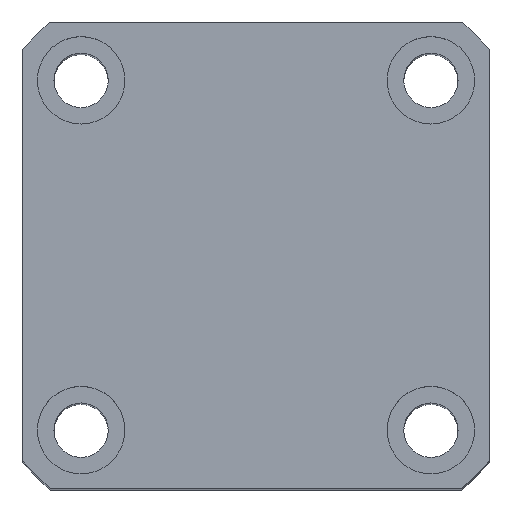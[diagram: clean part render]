
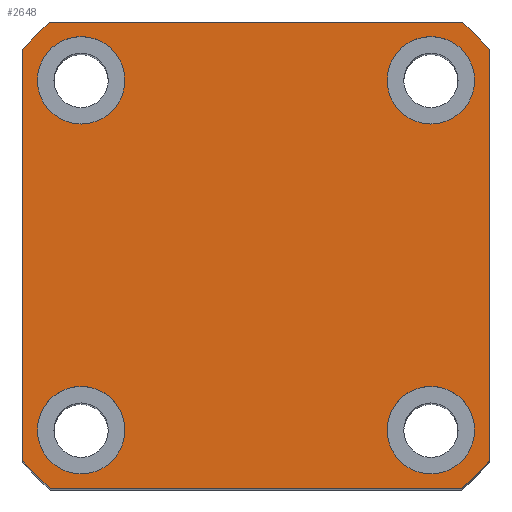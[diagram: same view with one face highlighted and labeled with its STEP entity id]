
A CAD part, top view. The second image highlights one B-rep face of the part: STEP entity #2648.
In plain terms, the highlighted planar face has unit normal (0, 0, 1) as drawn and (1, 0, 0) by its records, which use the part's own axes.
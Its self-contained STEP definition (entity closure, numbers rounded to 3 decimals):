
#5 = DIRECTION ( 'NONE',  ( 0., 0., -1. ) ) ;
#7 = DIRECTION ( 'NONE',  ( 0., 0., -1. ) ) ;
#20 = CARTESIAN_POINT ( 'NONE',  ( 95., 0., 0. ) ) ;
#152 = LINE ( 'NONE', #2949, #1435 ) ;
#159 = EDGE_CURVE ( 'NONE', #6123, #1925, #5030, .T. ) ;
#262 = DIRECTION ( 'NONE',  ( 1., 0., 0. ) ) ;
#368 = DIRECTION ( 'NONE',  ( 1., 0., 0. ) ) ;
#392 = CARTESIAN_POINT ( 'NONE',  ( 95., -18., 18. ) ) ;
#517 = CARTESIAN_POINT ( 'NONE',  ( 95., 24., 24. ) ) ;
#527 = EDGE_CURVE ( 'NONE', #8044, #7627, #5136, .T. ) ;
#533 = EDGE_LOOP ( 'NONE', ( #6852, #3414 ) ) ;
#601 = EDGE_LOOP ( 'NONE', ( #6650, #4285 ) ) ;
#697 = DIRECTION ( 'NONE',  ( 0., 0., -1. ) ) ;
#753 = DIRECTION ( 'NONE',  ( 1., 0., 0. ) ) ;
#780 = AXIS2_PLACEMENT_3D ( 'NONE', #3987, #262, #4616 ) ;
#891 = CARTESIAN_POINT ( 'NONE',  ( 95., 18., -13.5 ) ) ;
#922 = ORIENTED_EDGE ( 'NONE', *, *, #1958, .T. ) ;
#937 = EDGE_CURVE ( 'NONE', #7038, #6116, #5415, .T. ) ;
#994 = EDGE_CURVE ( 'NONE', #4853, #3698, #7094, .T. ) ;
#1004 = AXIS2_PLACEMENT_3D ( 'NONE', #392, #368, #7 ) ;
#1095 = EDGE_CURVE ( 'NONE', #1118, #4091, #1923, .T. ) ;
#1118 = VERTEX_POINT ( 'NONE', #2047 ) ;
#1137 = DIRECTION ( 'NONE',  ( 0., 0., -1. ) ) ;
#1154 = DIRECTION ( 'NONE',  ( 0., 0., 1. ) ) ;
#1215 = CARTESIAN_POINT ( 'NONE',  ( 95., 18., 18. ) ) ;
#1230 = FACE_BOUND ( 'NONE', #533, .T. ) ;
#1272 = CARTESIAN_POINT ( 'NONE',  ( 95., 18., -18. ) ) ;
#1305 = DIRECTION ( 'NONE',  ( 1., 0., 0. ) ) ;
#1307 = EDGE_CURVE ( 'NONE', #4091, #1118, #6308, .T. ) ;
#1366 = AXIS2_PLACEMENT_3D ( 'NONE', #1922, #2006, #2037 ) ;
#1382 = DIRECTION ( 'NONE',  ( 0., 0., -1. ) ) ;
#1435 = VECTOR ( 'NONE', #3809, 1000. ) ;
#1624 = ORIENTED_EDGE ( 'NONE', *, *, #994, .T. ) ;
#1637 = FACE_BOUND ( 'NONE', #601, .T. ) ;
#1646 = VERTEX_POINT ( 'NONE', #7970 ) ;
#1712 = ORIENTED_EDGE ( 'NONE', *, *, #159, .T. ) ;
#1723 = EDGE_CURVE ( 'NONE', #1925, #4853, #152, .T. ) ;
#1727 = DIRECTION ( 'NONE',  ( 1., 0., 0. ) ) ;
#1773 = CARTESIAN_POINT ( 'NONE',  ( 95., -24., 24. ) ) ;
#1909 = LINE ( 'NONE', #517, #5224 ) ;
#1922 = CARTESIAN_POINT ( 'NONE',  ( 95., -18., -18. ) ) ;
#1923 = CIRCLE ( 'NONE', #6954, 4.5 ) ;
#1925 = VERTEX_POINT ( 'NONE', #5008 ) ;
#1958 = EDGE_CURVE ( 'NONE', #6116, #6123, #1909, .T. ) ;
#1979 = DIRECTION ( 'NONE',  ( 0., 0., -1. ) ) ;
#2006 = DIRECTION ( 'NONE',  ( 1., 0., 0. ) ) ;
#2037 = DIRECTION ( 'NONE',  ( 0., 0., -1. ) ) ;
#2047 = CARTESIAN_POINT ( 'NONE',  ( 95., -18., -13.5 ) ) ;
#2071 = DIRECTION ( 'NONE',  ( 1., 0., 0. ) ) ;
#2090 = VERTEX_POINT ( 'NONE', #6705 ) ;
#2105 = AXIS2_PLACEMENT_3D ( 'NONE', #20, #2071, #1979 ) ;
#2149 = DIRECTION ( 'NONE',  ( 0., 0., -1. ) ) ;
#2154 = EDGE_CURVE ( 'NONE', #7290, #4537, #4034, .T. ) ;
#2199 = DIRECTION ( 'NONE',  ( 1., 0., 0. ) ) ;
#2490 = CARTESIAN_POINT ( 'NONE',  ( 95., -18., -18. ) ) ;
#2624 = CARTESIAN_POINT ( 'NONE',  ( 95., -21.166, 24. ) ) ;
#2648 = ADVANCED_FACE ( 'NONE', ( #7668, #1637, #1230, #4329, #2707 ), #7445, .T. ) ;
#2688 = DIRECTION ( 'NONE',  ( 0., 0., -1. ) ) ;
#2690 = ORIENTED_EDGE ( 'NONE', *, *, #5216, .F. ) ;
#2707 = FACE_OUTER_BOUND ( 'NONE', #4292, .T. ) ;
#2739 = EDGE_CURVE ( 'NONE', #4537, #7290, #6890, .T. ) ;
#2765 = DIRECTION ( 'NONE',  ( 0., 0., -1. ) ) ;
#2857 = CARTESIAN_POINT ( 'NONE',  ( 95., 21.166, -24. ) ) ;
#2862 = CARTESIAN_POINT ( 'NONE',  ( 95., 0., 0. ) ) ;
#2949 = CARTESIAN_POINT ( 'NONE',  ( 95., 24., 24. ) ) ;
#3155 = ORIENTED_EDGE ( 'NONE', *, *, #3792, .T. ) ;
#3191 = EDGE_CURVE ( 'NONE', #2090, #1646, #5714, .T. ) ;
#3333 = VERTEX_POINT ( 'NONE', #3733 ) ;
#3343 = DIRECTION ( 'NONE',  ( 1., 0., 0. ) ) ;
#3375 = CARTESIAN_POINT ( 'NONE',  ( 95., -18., 22.5 ) ) ;
#3404 = CARTESIAN_POINT ( 'NONE',  ( 95., 24., -21.166 ) ) ;
#3414 = ORIENTED_EDGE ( 'NONE', *, *, #2739, .F. ) ;
#3514 = EDGE_CURVE ( 'NONE', #7627, #8044, #4726, .T. ) ;
#3561 = CARTESIAN_POINT ( 'NONE',  ( 95., 24., -24. ) ) ;
#3612 = DIRECTION ( 'NONE',  ( 0., 0., -1. ) ) ;
#3613 = CIRCLE ( 'NONE', #5568, 4.5 ) ;
#3638 = ORIENTED_EDGE ( 'NONE', *, *, #5475, .T. ) ;
#3644 = DIRECTION ( 'NONE',  ( 1., 0., 0. ) ) ;
#3670 = CARTESIAN_POINT ( 'NONE',  ( 95., 18., -18. ) ) ;
#3698 = VERTEX_POINT ( 'NONE', #5572 ) ;
#3731 = DIRECTION ( 'NONE',  ( 1., 0., 0. ) ) ;
#3733 = CARTESIAN_POINT ( 'NONE',  ( 95., -24., -21.166 ) ) ;
#3741 = CARTESIAN_POINT ( 'NONE',  ( 95., 18., -22.5 ) ) ;
#3792 = EDGE_CURVE ( 'NONE', #6558, #7038, #7260, .T. ) ;
#3809 = DIRECTION ( 'NONE',  ( 0., -1., 0. ) ) ;
#3952 = ORIENTED_EDGE ( 'NONE', *, *, #1723, .T. ) ;
#3987 = CARTESIAN_POINT ( 'NONE',  ( 95., 0., 0. ) ) ;
#4034 = CIRCLE ( 'NONE', #4801, 4.5 ) ;
#4035 = CARTESIAN_POINT ( 'NONE',  ( 95., 24., 21.166 ) ) ;
#4062 = AXIS2_PLACEMENT_3D ( 'NONE', #1215, #1305, #1137 ) ;
#4091 = VERTEX_POINT ( 'NONE', #7270 ) ;
#4122 = VECTOR ( 'NONE', #5801, 1000. ) ;
#4205 = AXIS2_PLACEMENT_3D ( 'NONE', #7507, #6978, #6951 ) ;
#4282 = EDGE_LOOP ( 'NONE', ( #6368, #2690 ) ) ;
#4285 = ORIENTED_EDGE ( 'NONE', *, *, #3514, .F. ) ;
#4292 = EDGE_LOOP ( 'NONE', ( #3155, #7554, #922, #1712, #3952, #1624, #3638, #6496 ) ) ;
#4297 = LINE ( 'NONE', #1773, #7645 ) ;
#4329 = FACE_BOUND ( 'NONE', #4282, .T. ) ;
#4537 = VERTEX_POINT ( 'NONE', #891 ) ;
#4616 = DIRECTION ( 'NONE',  ( 0., 0., -1. ) ) ;
#4726 = CIRCLE ( 'NONE', #1004, 4.5 ) ;
#4801 = AXIS2_PLACEMENT_3D ( 'NONE', #3670, #3644, #3612 ) ;
#4847 = AXIS2_PLACEMENT_3D ( 'NONE', #2862, #5089, #2765 ) ;
#4853 = VERTEX_POINT ( 'NONE', #2624 ) ;
#5008 = CARTESIAN_POINT ( 'NONE',  ( 95., 21.166, 24. ) ) ;
#5030 = CIRCLE ( 'NONE', #2105, 32. ) ;
#5089 = DIRECTION ( 'NONE',  ( 1., 0., 0. ) ) ;
#5136 = CIRCLE ( 'NONE', #7110, 4.5 ) ;
#5216 = EDGE_CURVE ( 'NONE', #1646, #2090, #3613, .T. ) ;
#5224 = VECTOR ( 'NONE', #1154, 1000. ) ;
#5272 = AXIS2_PLACEMENT_3D ( 'NONE', #7907, #3343, #2688 ) ;
#5415 = CIRCLE ( 'NONE', #5272, 32. ) ;
#5418 = CARTESIAN_POINT ( 'NONE',  ( 95., -18., 18. ) ) ;
#5475 = EDGE_CURVE ( 'NONE', #3698, #3333, #4297, .T. ) ;
#5479 = CARTESIAN_POINT ( 'NONE',  ( 95., -21.166, -24. ) ) ;
#5499 = DIRECTION ( 'NONE',  ( 0., 0., -1. ) ) ;
#5568 = AXIS2_PLACEMENT_3D ( 'NONE', #7481, #3731, #5 ) ;
#5572 = CARTESIAN_POINT ( 'NONE',  ( 95., -24., 21.166 ) ) ;
#5714 = CIRCLE ( 'NONE', #4062, 4.5 ) ;
#5801 = DIRECTION ( 'NONE',  ( 0., 1., 0. ) ) ;
#5888 = ORIENTED_EDGE ( 'NONE', *, *, #1095, .F. ) ;
#6084 = ORIENTED_EDGE ( 'NONE', *, *, #1307, .F. ) ;
#6116 = VERTEX_POINT ( 'NONE', #3404 ) ;
#6123 = VERTEX_POINT ( 'NONE', #4035 ) ;
#6308 = CIRCLE ( 'NONE', #1366, 4.5 ) ;
#6368 = ORIENTED_EDGE ( 'NONE', *, *, #3191, .F. ) ;
#6429 = EDGE_CURVE ( 'NONE', #3333, #6558, #7981, .T. ) ;
#6496 = ORIENTED_EDGE ( 'NONE', *, *, #6429, .T. ) ;
#6558 = VERTEX_POINT ( 'NONE', #5479 ) ;
#6650 = ORIENTED_EDGE ( 'NONE', *, *, #527, .F. ) ;
#6685 = CARTESIAN_POINT ( 'NONE',  ( 95., -18., 13.5 ) ) ;
#6705 = CARTESIAN_POINT ( 'NONE',  ( 95., 18., 13.5 ) ) ;
#6747 = AXIS2_PLACEMENT_3D ( 'NONE', #1272, #753, #697 ) ;
#6852 = ORIENTED_EDGE ( 'NONE', *, *, #2154, .F. ) ;
#6890 = CIRCLE ( 'NONE', #6747, 4.5 ) ;
#6951 = DIRECTION ( 'NONE',  ( 0., 0., -1. ) ) ;
#6954 = AXIS2_PLACEMENT_3D ( 'NONE', #2490, #2199, #2149 ) ;
#6978 = DIRECTION ( 'NONE',  ( 1., 0., 0. ) ) ;
#7038 = VERTEX_POINT ( 'NONE', #2857 ) ;
#7094 = CIRCLE ( 'NONE', #4847, 32. ) ;
#7110 = AXIS2_PLACEMENT_3D ( 'NONE', #5418, #1727, #1382 ) ;
#7260 = LINE ( 'NONE', #3561, #4122 ) ;
#7270 = CARTESIAN_POINT ( 'NONE',  ( 95., -18., -22.5 ) ) ;
#7290 = VERTEX_POINT ( 'NONE', #3741 ) ;
#7445 = PLANE ( 'NONE',  #4205 ) ;
#7481 = CARTESIAN_POINT ( 'NONE',  ( 95., 18., 18. ) ) ;
#7507 = CARTESIAN_POINT ( 'NONE',  ( 95., 0., 0. ) ) ;
#7554 = ORIENTED_EDGE ( 'NONE', *, *, #937, .T. ) ;
#7627 = VERTEX_POINT ( 'NONE', #3375 ) ;
#7645 = VECTOR ( 'NONE', #5499, 1000. ) ;
#7668 = FACE_BOUND ( 'NONE', #7950, .T. ) ;
#7907 = CARTESIAN_POINT ( 'NONE',  ( 95., 0., 0. ) ) ;
#7950 = EDGE_LOOP ( 'NONE', ( #6084, #5888 ) ) ;
#7970 = CARTESIAN_POINT ( 'NONE',  ( 95., 18., 22.5 ) ) ;
#7981 = CIRCLE ( 'NONE', #780, 32. ) ;
#8044 = VERTEX_POINT ( 'NONE', #6685 ) ;
